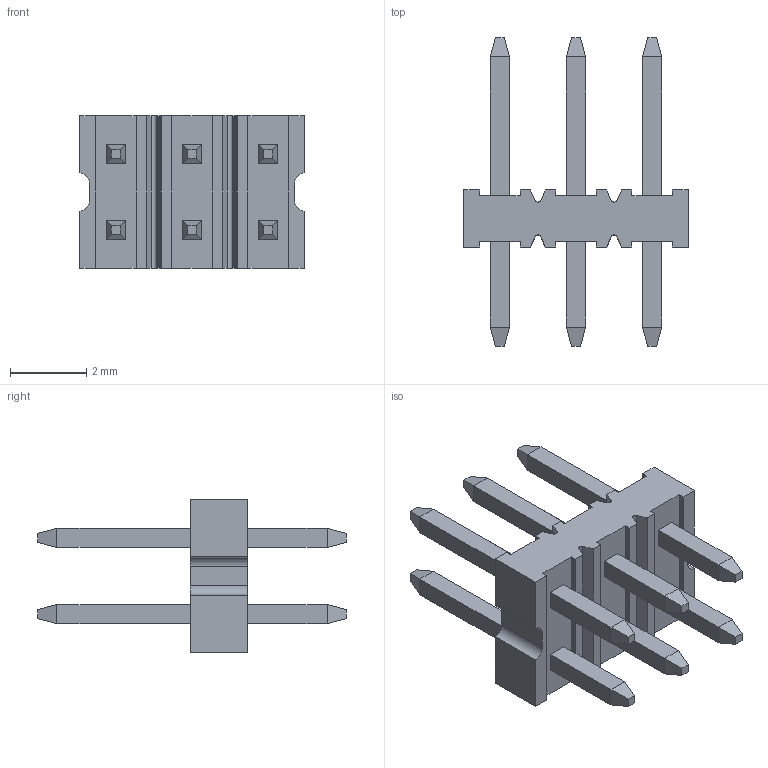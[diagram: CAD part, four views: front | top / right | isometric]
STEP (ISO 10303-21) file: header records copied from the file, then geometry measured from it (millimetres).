
FILE_DESCRIPTION((''),'2;1');
FILE_NAME('877580616','2018-12-12T',('gga'),(''),'PRO/ENGINEER BY PARAMETRIC TECHNOLOGY CORPORATION, 2016010','PRO/ENGINEER BY PARAMETRIC TECHNOLOGY CORPORATION, 2016010','');
FILE_SCHEMA(('CONFIG_CONTROL_DESIGN'));
Length unit declared in the file: millimetre
Products named in the file (1): 877580616
Bounding box: 5.9 x 8.1 x 4 mm (x, y, z)
Volume: 39.4 mm3; surface area: 165.3 mm2
Topology: 1 solids, 1 shells, 162 faces, 408 edges, 260 vertices
Faces by surface type: plane 154, cylinder 8
Entity records: 4749 total; most frequent: CARTESIAN_POINT 819, ORIENTED_EDGE 792, DIRECTION 762, EDGE_CURVE 396, VECTOR 380, LINE 380, VERTEX_POINT 248, AXIS2_PLACEMENT_3D 191
